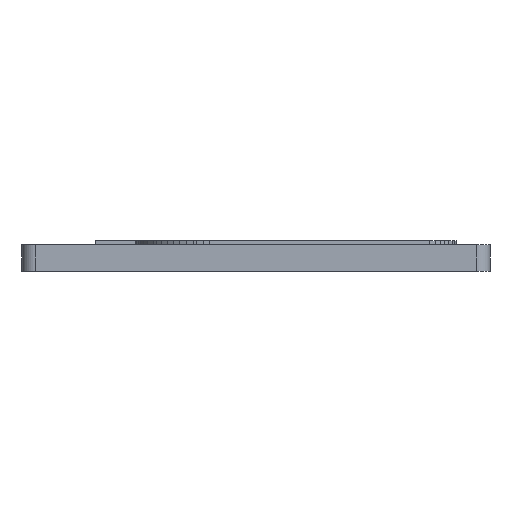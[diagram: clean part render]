
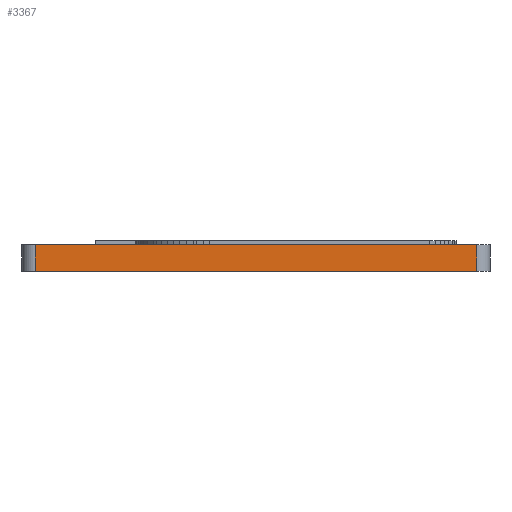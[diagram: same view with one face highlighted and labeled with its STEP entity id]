
A CAD part, left-side view. The second image highlights one B-rep face of the part: STEP entity #3367.
In plain terms, the highlighted planar face has unit normal (-1, 0, 0).
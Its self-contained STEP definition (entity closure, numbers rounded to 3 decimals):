
#66 = PLANE('',#67);
#67 = AXIS2_PLACEMENT_3D('',#68,#69,#70);
#68 = CARTESIAN_POINT('',(49.061,34.324,0.));
#69 = DIRECTION('',(-0.,-0.,-1.));
#70 = DIRECTION('',(-1.,0.,0.));
#122 = PLANE('',#123);
#123 = AXIS2_PLACEMENT_3D('',#124,#125,#126);
#124 = CARTESIAN_POINT('',(49.061,34.324,4.));
#125 = DIRECTION('',(-0.,-0.,-1.));
#126 = DIRECTION('',(-1.,0.,0.));
#148 = CYLINDRICAL_SURFACE('',#149,2.);
#149 = AXIS2_PLACEMENT_3D('',#150,#151,#152);
#150 = CARTESIAN_POINT('',(2.,2.,0.));
#151 = DIRECTION('',(0.,0.,1.));
#152 = DIRECTION('',(0.,-1.,0.));
#165 = VERTEX_POINT('',#166);
#166 = CARTESIAN_POINT('',(0.,2.,0.));
#188 = EDGE_CURVE('',#165,#189,#191,.T.);
#189 = VERTEX_POINT('',#190);
#190 = CARTESIAN_POINT('',(0.,68.,0.));
#191 = SURFACE_CURVE('',#192,(#196,#203),.PCURVE_S1.);
#192 = LINE('',#193,#194);
#193 = CARTESIAN_POINT('',(0.,0.,0.));
#194 = VECTOR('',#195,1.);
#195 = DIRECTION('',(0.,1.,0.));
#196 = PCURVE('',#66,#197);
#197 = DEFINITIONAL_REPRESENTATION('',(#198),#202);
#198 = LINE('',#199,#200);
#199 = CARTESIAN_POINT('',(49.061,-34.324));
#200 = VECTOR('',#201,1.);
#201 = DIRECTION('',(0.,1.));
#202 = ( GEOMETRIC_REPRESENTATION_CONTEXT(2) 
PARAMETRIC_REPRESENTATION_CONTEXT() REPRESENTATION_CONTEXT('2D SPACE',''
  ) );
#203 = PCURVE('',#204,#209);
#204 = PLANE('',#205);
#205 = AXIS2_PLACEMENT_3D('',#206,#207,#208);
#206 = CARTESIAN_POINT('',(0.,0.,0.));
#207 = DIRECTION('',(-1.,0.,0.));
#208 = DIRECTION('',(0.,1.,0.));
#209 = DEFINITIONAL_REPRESENTATION('',(#210),#214);
#210 = LINE('',#211,#212);
#211 = CARTESIAN_POINT('',(0.,0.));
#212 = VECTOR('',#213,1.);
#213 = DIRECTION('',(1.,0.));
#214 = ( GEOMETRIC_REPRESENTATION_CONTEXT(2) 
PARAMETRIC_REPRESENTATION_CONTEXT() REPRESENTATION_CONTEXT('2D SPACE',''
  ) );
#233 = CYLINDRICAL_SURFACE('',#234,2.);
#234 = AXIS2_PLACEMENT_3D('',#235,#236,#237);
#235 = CARTESIAN_POINT('',(2.,68.,0.));
#236 = DIRECTION('',(0.,0.,1.));
#237 = DIRECTION('',(-1.,0.,0.));
#471 = EDGE_CURVE('',#165,#472,#474,.T.);
#472 = VERTEX_POINT('',#473);
#473 = CARTESIAN_POINT('',(0.,2.,4.));
#474 = SURFACE_CURVE('',#475,(#479,#486),.PCURVE_S1.);
#475 = LINE('',#476,#477);
#476 = CARTESIAN_POINT('',(0.,2.,0.));
#477 = VECTOR('',#478,1.);
#478 = DIRECTION('',(0.,0.,1.));
#479 = PCURVE('',#148,#480);
#480 = DEFINITIONAL_REPRESENTATION('',(#481),#485);
#481 = LINE('',#482,#483);
#482 = CARTESIAN_POINT('',(-1.571,0.));
#483 = VECTOR('',#484,1.);
#484 = DIRECTION('',(-0.,1.));
#485 = ( GEOMETRIC_REPRESENTATION_CONTEXT(2) 
PARAMETRIC_REPRESENTATION_CONTEXT() REPRESENTATION_CONTEXT('2D SPACE',''
  ) );
#486 = PCURVE('',#204,#487);
#487 = DEFINITIONAL_REPRESENTATION('',(#488),#492);
#488 = LINE('',#489,#490);
#489 = CARTESIAN_POINT('',(2.,0.));
#490 = VECTOR('',#491,1.);
#491 = DIRECTION('',(0.,-1.));
#492 = ( GEOMETRIC_REPRESENTATION_CONTEXT(2) 
PARAMETRIC_REPRESENTATION_CONTEXT() REPRESENTATION_CONTEXT('2D SPACE',''
  ) );
#522 = EDGE_CURVE('',#472,#523,#525,.T.);
#523 = VERTEX_POINT('',#524);
#524 = CARTESIAN_POINT('',(0.,68.,4.));
#525 = SURFACE_CURVE('',#526,(#530,#537),.PCURVE_S1.);
#526 = LINE('',#527,#528);
#527 = CARTESIAN_POINT('',(0.,0.,4.));
#528 = VECTOR('',#529,1.);
#529 = DIRECTION('',(0.,1.,0.));
#530 = PCURVE('',#122,#531);
#531 = DEFINITIONAL_REPRESENTATION('',(#532),#536);
#532 = LINE('',#533,#534);
#533 = CARTESIAN_POINT('',(49.061,-34.324));
#534 = VECTOR('',#535,1.);
#535 = DIRECTION('',(0.,1.));
#536 = ( GEOMETRIC_REPRESENTATION_CONTEXT(2) 
PARAMETRIC_REPRESENTATION_CONTEXT() REPRESENTATION_CONTEXT('2D SPACE',''
  ) );
#537 = PCURVE('',#204,#538);
#538 = DEFINITIONAL_REPRESENTATION('',(#539),#543);
#539 = LINE('',#540,#541);
#540 = CARTESIAN_POINT('',(0.,-4.));
#541 = VECTOR('',#542,1.);
#542 = DIRECTION('',(1.,0.));
#543 = ( GEOMETRIC_REPRESENTATION_CONTEXT(2) 
PARAMETRIC_REPRESENTATION_CONTEXT() REPRESENTATION_CONTEXT('2D SPACE',''
  ) );
#3367 = ADVANCED_FACE('',(#3368),#204,.T.);
#3368 = FACE_BOUND('',#3369,.T.);
#3369 = EDGE_LOOP('',(#3370,#3371,#3372,#3373));
#3370 = ORIENTED_EDGE('',*,*,#188,.F.);
#3371 = ORIENTED_EDGE('',*,*,#471,.T.);
#3372 = ORIENTED_EDGE('',*,*,#522,.T.);
#3373 = ORIENTED_EDGE('',*,*,#3374,.F.);
#3374 = EDGE_CURVE('',#189,#523,#3375,.T.);
#3375 = SURFACE_CURVE('',#3376,(#3380,#3387),.PCURVE_S1.);
#3376 = LINE('',#3377,#3378);
#3377 = CARTESIAN_POINT('',(0.,68.,0.));
#3378 = VECTOR('',#3379,1.);
#3379 = DIRECTION('',(0.,0.,1.));
#3380 = PCURVE('',#204,#3381);
#3381 = DEFINITIONAL_REPRESENTATION('',(#3382),#3386);
#3382 = LINE('',#3383,#3384);
#3383 = CARTESIAN_POINT('',(68.,0.));
#3384 = VECTOR('',#3385,1.);
#3385 = DIRECTION('',(0.,-1.));
#3386 = ( GEOMETRIC_REPRESENTATION_CONTEXT(2) 
PARAMETRIC_REPRESENTATION_CONTEXT() REPRESENTATION_CONTEXT('2D SPACE',''
  ) );
#3387 = PCURVE('',#233,#3388);
#3388 = DEFINITIONAL_REPRESENTATION('',(#3389),#3393);
#3389 = LINE('',#3390,#3391);
#3390 = CARTESIAN_POINT('',(-0.,0.));
#3391 = VECTOR('',#3392,1.);
#3392 = DIRECTION('',(-0.,1.));
#3393 = ( GEOMETRIC_REPRESENTATION_CONTEXT(2) 
PARAMETRIC_REPRESENTATION_CONTEXT() REPRESENTATION_CONTEXT('2D SPACE',''
  ) );
